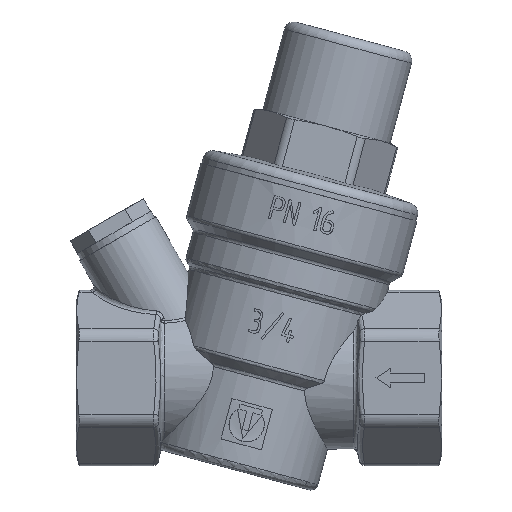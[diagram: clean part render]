
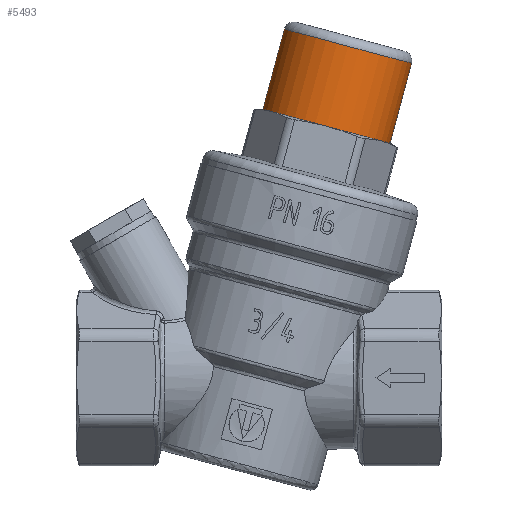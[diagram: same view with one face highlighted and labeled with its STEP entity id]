
A CAD part, left-side view. The second image highlights one B-rep face of the part: STEP entity #5493.
In plain terms, the highlighted cylindrical face has radius 13.5 mm (diameter 27 mm), a full revolution.
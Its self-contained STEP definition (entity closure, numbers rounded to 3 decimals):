
#5493=ADVANCED_FACE('',(#12143,#12145),#12147,.T.);
#12143=FACE_BOUND('',#12144,.T.);
#12144=EDGE_LOOP('',(#16527,#16528,#16529,#16530,#16531,#16532,#16533));
#12145=FACE_OUTER_BOUND('',#12146,.T.);
#12146=EDGE_LOOP('',(#16534));
#12147=CYLINDRICAL_SURFACE('',#12148,13.5);
#12148=AXIS2_PLACEMENT_3D('',#12149,#12150,#12151);
#12149=CARTESIAN_POINT('',(0.,-10.223,38.154));
#12150=DIRECTION('',(0.,-0.259,0.966));
#12151=DIRECTION('',(0.,0.966,0.259));
#16527=ORIENTED_EDGE('',*,*,#18373,.T.);
#16528=ORIENTED_EDGE('',*,*,#18372,.T.);
#16529=ORIENTED_EDGE('',*,*,#18371,.T.);
#16530=ORIENTED_EDGE('',*,*,#18370,.T.);
#16531=ORIENTED_EDGE('',*,*,#18369,.T.);
#16532=ORIENTED_EDGE('',*,*,#18368,.T.);
#16533=ORIENTED_EDGE('',*,*,#18367,.T.);
#16534=ORIENTED_EDGE('',*,*,#18374,.F.);
#18367=EDGE_CURVE('',#21164,#21204,#21209,.F.);
#18368=EDGE_CURVE('',#21172,#21164,#21210,.F.);
#18369=EDGE_CURVE('',#21180,#21172,#21211,.F.);
#18370=EDGE_CURVE('',#21188,#21180,#21212,.F.);
#18371=EDGE_CURVE('',#21213,#21188,#21214,.F.);
#18372=EDGE_CURVE('',#21196,#21213,#21215,.F.);
#18373=EDGE_CURVE('',#21204,#21196,#21216,.F.);
#18374=EDGE_CURVE('',#21217,#21217,#21218,.T.);
#21164=VERTEX_POINT('',#38304);
#21172=VERTEX_POINT('',#38418);
#21180=VERTEX_POINT('',#38530);
#21188=VERTEX_POINT('',#38653);
#21196=VERTEX_POINT('',#38766);
#21204=VERTEX_POINT('',#38878);
#21209=CIRCLE('',#38967,13.5);
#21210=CIRCLE('',#38971,13.5);
#21211=CIRCLE('',#38975,13.5);
#21212=CIRCLE('',#38979,13.5);
#21213=VERTEX_POINT('',#38983);
#21214=CIRCLE('',#38984,13.5);
#21215=CIRCLE('',#38988,13.5);
#21216=CIRCLE('',#38992,13.5);
#21217=VERTEX_POINT('',#38996);
#21218=CIRCLE('',#38997,13.5);
#38304=CARTESIAN_POINT('',(6.75,-25.14,48.651));
#38418=CARTESIAN_POINT('',(-6.75,-25.14,48.651));
#38530=CARTESIAN_POINT('',(-13.5,-13.847,51.677));
#38653=CARTESIAN_POINT('',(-6.75,-2.554,54.703));
#38766=CARTESIAN_POINT('',(6.75,-2.554,54.703));
#38878=CARTESIAN_POINT('',(13.5,-13.847,51.677));
#38967=AXIS2_PLACEMENT_3D('',#38968,#38969,#38970);
#38968=CARTESIAN_POINT('',(0.,-13.847,51.677));
#38969=DIRECTION('',(0.,0.259,-0.966));
#38970=DIRECTION('',(1.,0.,0.));
#38971=AXIS2_PLACEMENT_3D('',#38972,#38973,#38974);
#38972=CARTESIAN_POINT('',(0.,-13.847,51.677));
#38973=DIRECTION('',(0.,0.259,-0.966));
#38974=DIRECTION('',(0.5,-0.837,-0.224));
#38975=AXIS2_PLACEMENT_3D('',#38976,#38977,#38978);
#38976=CARTESIAN_POINT('',(0.,-13.847,51.677));
#38977=DIRECTION('',(0.,0.259,-0.966));
#38978=DIRECTION('',(-0.5,-0.837,-0.224));
#38979=AXIS2_PLACEMENT_3D('',#38980,#38981,#38982);
#38980=CARTESIAN_POINT('',(0.,-13.847,51.677));
#38981=DIRECTION('',(0.,0.259,-0.966));
#38982=DIRECTION('',(-1.,0.,0.));
#38983=CARTESIAN_POINT('',(0.,-0.807,55.171));
#38984=AXIS2_PLACEMENT_3D('',#38985,#38986,#38987);
#38985=CARTESIAN_POINT('',(0.,-13.847,51.677));
#38986=DIRECTION('',(0.,0.259,-0.966));
#38987=DIRECTION('',(-0.5,0.837,0.224));
#38988=AXIS2_PLACEMENT_3D('',#38989,#38990,#38991);
#38989=CARTESIAN_POINT('',(0.,-13.847,51.677));
#38990=DIRECTION('',(0.,0.259,-0.966));
#38991=DIRECTION('',(0.,0.966,0.259));
#38992=AXIS2_PLACEMENT_3D('',#38993,#38994,#38995);
#38993=CARTESIAN_POINT('',(0.,-13.847,51.677));
#38994=DIRECTION('',(0.,0.259,-0.966));
#38995=DIRECTION('',(0.5,0.837,0.224));
#38996=CARTESIAN_POINT('',(0.,-5.207,71.592));
#38997=AXIS2_PLACEMENT_3D('',#38998,#38999,#39000);
#38998=CARTESIAN_POINT('',(0.,-18.247,68.098));
#38999=DIRECTION('',(0.,-0.259,0.966));
#39000=DIRECTION('',(0.,0.966,0.259));
